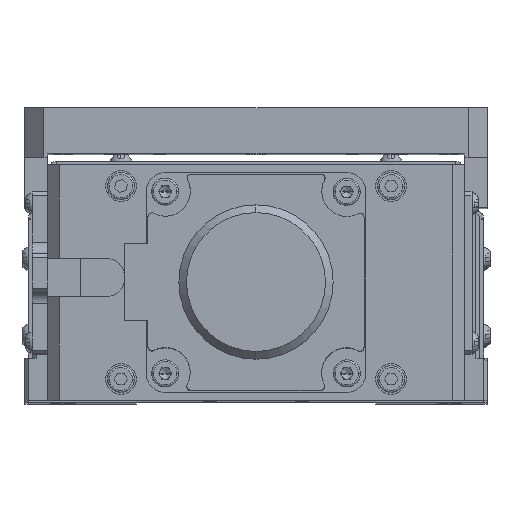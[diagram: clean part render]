
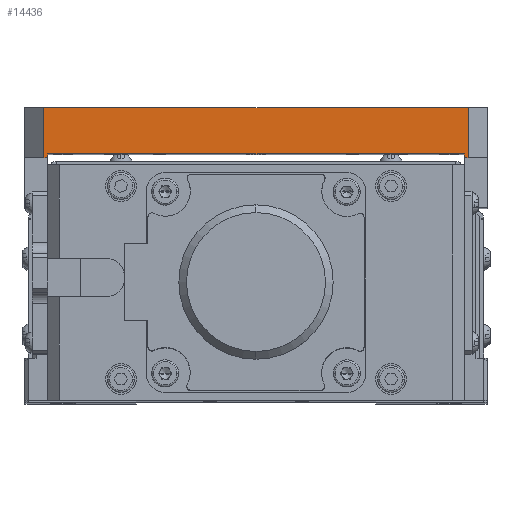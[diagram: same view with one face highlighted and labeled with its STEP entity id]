
A CAD part, top view. The second image highlights one B-rep face of the part: STEP entity #14436.
In plain terms, the highlighted planar face has unit normal (0, 0, 1).
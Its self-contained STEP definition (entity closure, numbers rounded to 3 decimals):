
#813 = EDGE_CURVE ( 'NONE', #17192, #34691, #7705, .T. ) ;
#866 = CARTESIAN_POINT ( 'NONE',  ( 54., 64.5, 105.2 ) ) ;
#1098 = VECTOR ( 'NONE', #23669, 1000. ) ;
#1578 = VECTOR ( 'NONE', #6321, 1000. ) ;
#1633 = CARTESIAN_POINT ( 'NONE',  ( 55., 76.5, 105.2 ) ) ;
#1708 = PLANE ( 'NONE',  #21255 ) ;
#1951 = VERTEX_POINT ( 'NONE', #27319 ) ;
#2071 = EDGE_CURVE ( 'NONE', #20634, #21850, #25381, .T. ) ;
#4497 = DIRECTION ( 'NONE',  ( 1., 0., 0. ) ) ;
#4542 = DIRECTION ( 'NONE',  ( 0., 0., -1. ) ) ;
#5513 = ORIENTED_EDGE ( 'NONE', *, *, #813, .T. ) ;
#6321 = DIRECTION ( 'NONE',  ( 0., -1., 0. ) ) ;
#6514 = VECTOR ( 'NONE', #15234, 1000. ) ;
#6575 = DIRECTION ( 'NONE',  ( 0., 1., 0. ) ) ;
#6820 = VECTOR ( 'NONE', #6575, 1000. ) ;
#7705 = LINE ( 'NONE', #17542, #6820 ) ;
#7819 = LINE ( 'NONE', #12419, #6514 ) ;
#8238 = CARTESIAN_POINT ( 'NONE',  ( 54., 64.5, 105.2 ) ) ;
#10309 = ORIENTED_EDGE ( 'NONE', *, *, #23707, .F. ) ;
#10883 = VECTOR ( 'NONE', #34069, 1000. ) ;
#12370 = CARTESIAN_POINT ( 'NONE',  ( -54., 64.5, 105.2 ) ) ;
#12386 = VERTEX_POINT ( 'NONE', #13521 ) ;
#12419 = CARTESIAN_POINT ( 'NONE',  ( 60., 63.5, 105.2 ) ) ;
#12488 = CARTESIAN_POINT ( 'NONE',  ( -55., 76.5, 105.2 ) ) ;
#12497 = VECTOR ( 'NONE', #4497, 1000. ) ;
#13521 = CARTESIAN_POINT ( 'NONE',  ( -55., 63.5, 105.2 ) ) ;
#13561 = CARTESIAN_POINT ( 'NONE',  ( 55., 63.5, 105.2 ) ) ;
#13654 = ORIENTED_EDGE ( 'NONE', *, *, #30420, .T. ) ;
#13929 = CARTESIAN_POINT ( 'NONE',  ( 54., 63.5, 105.2 ) ) ;
#14436 = ADVANCED_FACE ( 'NONE', ( #27485 ), #1708, .F. ) ;
#14715 = CARTESIAN_POINT ( 'NONE',  ( 54., 64.5, 105.2 ) ) ;
#15234 = DIRECTION ( 'NONE',  ( 1., 0., 0. ) ) ;
#17192 = VERTEX_POINT ( 'NONE', #13561 ) ;
#17329 = LINE ( 'NONE', #26946, #12497 ) ;
#17542 = CARTESIAN_POINT ( 'NONE',  ( 55., 76.5, 105.2 ) ) ;
#17683 = ORIENTED_EDGE ( 'NONE', *, *, #23585, .F. ) ;
#18337 = LINE ( 'NONE', #12488, #1098 ) ;
#18385 = LINE ( 'NONE', #28653, #10883 ) ;
#19204 = ORIENTED_EDGE ( 'NONE', *, *, #19511, .T. ) ;
#19244 = LINE ( 'NONE', #12370, #1578 ) ;
#19511 = EDGE_CURVE ( 'NONE', #12386, #27854, #17329, .T. ) ;
#20634 = VERTEX_POINT ( 'NONE', #866 ) ;
#21255 = AXIS2_PLACEMENT_3D ( 'NONE', #35364, #4542, #35735 ) ;
#21850 = VERTEX_POINT ( 'NONE', #13929 ) ;
#22288 = DIRECTION ( 'NONE',  ( -1., 0., 0. ) ) ;
#22312 = VERTEX_POINT ( 'NONE', #24232 ) ;
#23178 = EDGE_CURVE ( 'NONE', #21850, #17192, #7819, .T. ) ;
#23585 = EDGE_CURVE ( 'NONE', #1951, #34691, #18385, .T. ) ;
#23669 = DIRECTION ( 'NONE',  ( 0., -1., 0. ) ) ;
#23707 = EDGE_CURVE ( 'NONE', #22312, #27854, #19244, .T. ) ;
#23943 = CARTESIAN_POINT ( 'NONE',  ( -54., 63.5, 105.2 ) ) ;
#24232 = CARTESIAN_POINT ( 'NONE',  ( -54., 64.5, 105.2 ) ) ;
#25381 = LINE ( 'NONE', #14715, #28473 ) ;
#26946 = CARTESIAN_POINT ( 'NONE',  ( 60., 63.5, 105.2 ) ) ;
#27129 = EDGE_CURVE ( 'NONE', #20634, #22312, #27392, .T. ) ;
#27319 = CARTESIAN_POINT ( 'NONE',  ( -55., 76.5, 105.2 ) ) ;
#27392 = LINE ( 'NONE', #8238, #34002 ) ;
#27485 = FACE_OUTER_BOUND ( 'NONE', #31490, .T. ) ;
#27854 = VERTEX_POINT ( 'NONE', #23943 ) ;
#28473 = VECTOR ( 'NONE', #30766, 1000. ) ;
#28653 = CARTESIAN_POINT ( 'NONE',  ( 60., 76.5, 105.2 ) ) ;
#29557 = ORIENTED_EDGE ( 'NONE', *, *, #23178, .T. ) ;
#29559 = ORIENTED_EDGE ( 'NONE', *, *, #27129, .F. ) ;
#30420 = EDGE_CURVE ( 'NONE', #1951, #12386, #18337, .T. ) ;
#30766 = DIRECTION ( 'NONE',  ( 0., -1., 0. ) ) ;
#31490 = EDGE_LOOP ( 'NONE', ( #17683, #13654, #19204, #10309, #29559, #32234, #29557, #5513 ) ) ;
#32234 = ORIENTED_EDGE ( 'NONE', *, *, #2071, .T. ) ;
#34002 = VECTOR ( 'NONE', #22288, 1000. ) ;
#34069 = DIRECTION ( 'NONE',  ( 1., 0., 0. ) ) ;
#34691 = VERTEX_POINT ( 'NONE', #1633 ) ;
#35364 = CARTESIAN_POINT ( 'NONE',  ( 60., 76.5, 105.2 ) ) ;
#35735 = DIRECTION ( 'NONE',  ( -1., 0., 0. ) ) ;
